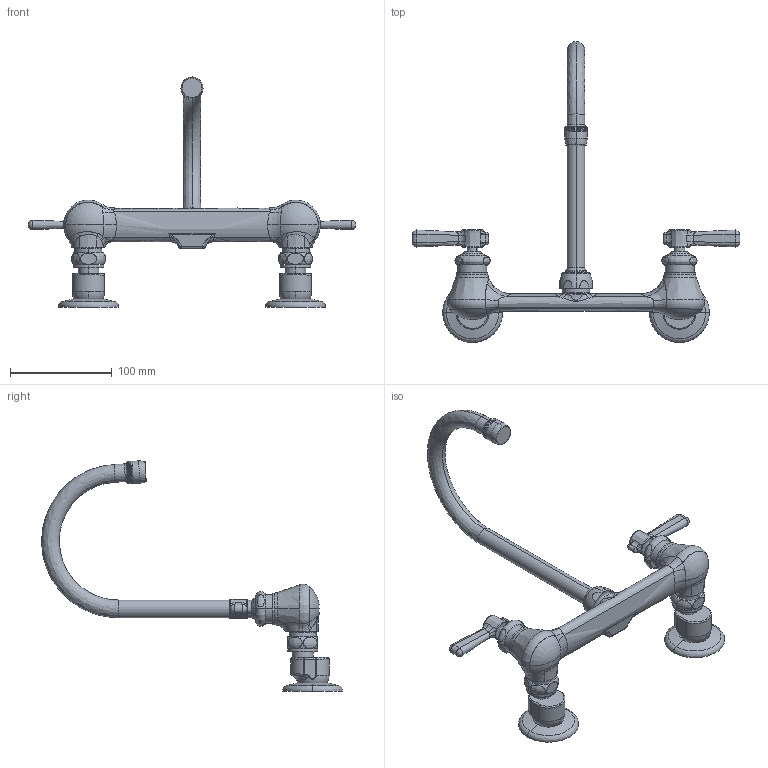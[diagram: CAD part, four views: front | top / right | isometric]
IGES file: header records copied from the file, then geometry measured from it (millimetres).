
Start section:  PTC IGES file: 540-ldgn2ae3_sw0001.igs
Global section: file name: 540-ldgn2ae3_sw0001.igs; native system: Pro/ENGINEER by Parametric Technology Corporation; preprocessor: 2010230; author: jrodriguez; organization: Unknown; date: 20110907.160834; units: inch
Bounding box: 322.07 x 295.6 x 226.12 mm (x, y, z)
Surface area: 100390.5 mm2 (no closed solid volume)
Topology: 0 solids, 0 shells, 523 faces, 3576 edges, 4729 vertices
Faces by surface type: bspline 340, revolution 183
